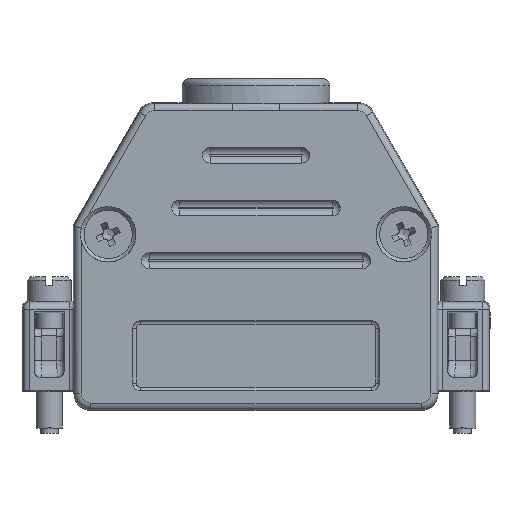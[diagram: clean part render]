
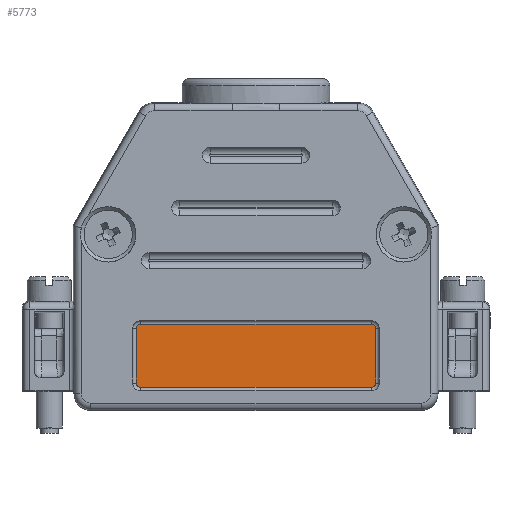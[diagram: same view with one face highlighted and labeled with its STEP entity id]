
A CAD part, top view. The second image highlights one B-rep face of the part: STEP entity #5773.
In plain terms, the highlighted planar face has unit normal (0, 0, 1).
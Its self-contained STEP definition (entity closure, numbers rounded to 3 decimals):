
#4941=CIRCLE('',#17319,0.5);
#4942=CIRCLE('',#17320,0.5);
#4943=CIRCLE('',#17321,0.5);
#4944=CIRCLE('',#17322,0.5);
#5773=ADVANCED_FACE('',(#6822),#6454,.T.);
#6454=PLANE('',#17323);
#6822=FACE_OUTER_BOUND('',#7475,.T.);
#7475=EDGE_LOOP('',(#8789,#8790,#8791,#8792,#8793,#8794,#8795,#8796));
#8789=ORIENTED_EDGE('',*,*,#13275,.T.);
#8790=ORIENTED_EDGE('',*,*,#13276,.T.);
#8791=ORIENTED_EDGE('',*,*,#13277,.T.);
#8792=ORIENTED_EDGE('',*,*,#13278,.T.);
#8793=ORIENTED_EDGE('',*,*,#13279,.T.);
#8794=ORIENTED_EDGE('',*,*,#13280,.T.);
#8795=ORIENTED_EDGE('',*,*,#13281,.T.);
#8796=ORIENTED_EDGE('',*,*,#13282,.T.);
#12043=VERTEX_POINT('',#22860);
#12044=VERTEX_POINT('',#22861);
#12045=VERTEX_POINT('',#22863);
#12046=VERTEX_POINT('',#22865);
#12047=VERTEX_POINT('',#22867);
#12048=VERTEX_POINT('',#22869);
#12049=VERTEX_POINT('',#22871);
#12050=VERTEX_POINT('',#22873);
#13275=EDGE_CURVE('',#12043,#12044,#14856,.T.);
#13276=EDGE_CURVE('',#12044,#12045,#4941,.T.);
#13277=EDGE_CURVE('',#12045,#12046,#14857,.T.);
#13278=EDGE_CURVE('',#12046,#12047,#4942,.T.);
#13279=EDGE_CURVE('',#12047,#12048,#14858,.T.);
#13280=EDGE_CURVE('',#12048,#12049,#4943,.T.);
#13281=EDGE_CURVE('',#12049,#12050,#14859,.T.);
#13282=EDGE_CURVE('',#12050,#12043,#4944,.T.);
#14856=LINE('',#22859,#15775);
#14857=LINE('',#22864,#15776);
#14858=LINE('',#22868,#15777);
#14859=LINE('',#22872,#15778);
#15775=VECTOR('',#19110,1.);
#15776=VECTOR('',#19113,1.);
#15777=VECTOR('',#19116,1.);
#15778=VECTOR('',#19119,1.);
#17319=AXIS2_PLACEMENT_3D('',#22862,#19111,#19112);
#17320=AXIS2_PLACEMENT_3D('',#22866,#19114,#19115);
#17321=AXIS2_PLACEMENT_3D('',#22870,#19117,#19118);
#17322=AXIS2_PLACEMENT_3D('',#22874,#19120,#19121);
#17323=AXIS2_PLACEMENT_3D('',#22875,#19122,#19123);
#19110=DIRECTION('',(0.,1.,0.));
#19111=DIRECTION('',(0.,0.,1.));
#19112=DIRECTION('',(1.,0.,0.));
#19113=DIRECTION('',(-1.,0.,0.));
#19114=DIRECTION('',(0.,0.,1.));
#19115=DIRECTION('',(1.,0.,0.));
#19116=DIRECTION('',(0.,-1.,0.));
#19117=DIRECTION('',(0.,0.,1.));
#19118=DIRECTION('',(1.,0.,0.));
#19119=DIRECTION('',(1.,0.,0.));
#19120=DIRECTION('',(0.,0.,1.));
#19121=DIRECTION('',(1.,0.,0.));
#19122=DIRECTION('',(0.,0.,1.));
#19123=DIRECTION('',(-1.,0.,0.));
#22859=CARTESIAN_POINT('',(13.6,7.1,7.2));
#22860=CARTESIAN_POINT('',(13.6,0.9,7.2));
#22861=CARTESIAN_POINT('',(13.6,7.1,7.2));
#22862=CARTESIAN_POINT('',(13.1,7.1,7.2));
#22863=CARTESIAN_POINT('',(13.1,7.6,7.2));
#22864=CARTESIAN_POINT('',(-13.1,7.6,7.2));
#22865=CARTESIAN_POINT('',(-13.1,7.6,7.2));
#22866=CARTESIAN_POINT('',(-13.1,7.1,7.2));
#22867=CARTESIAN_POINT('',(-13.6,7.1,7.2));
#22868=CARTESIAN_POINT('',(-13.6,7.1,7.2));
#22869=CARTESIAN_POINT('',(-13.6,0.9,7.2));
#22870=CARTESIAN_POINT('',(-13.1,0.9,7.2));
#22871=CARTESIAN_POINT('',(-13.1,0.4,7.2));
#22872=CARTESIAN_POINT('',(-13.1,0.4,7.2));
#22873=CARTESIAN_POINT('',(13.1,0.4,7.2));
#22874=CARTESIAN_POINT('',(13.1,0.9,7.2));
#22875=CARTESIAN_POINT('',(-13.1,7.1,7.2));
